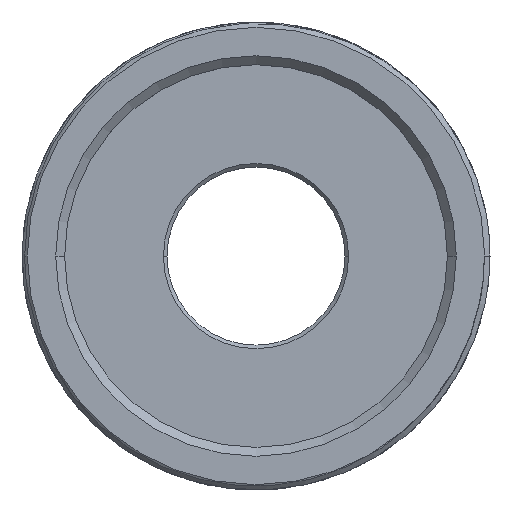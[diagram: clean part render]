
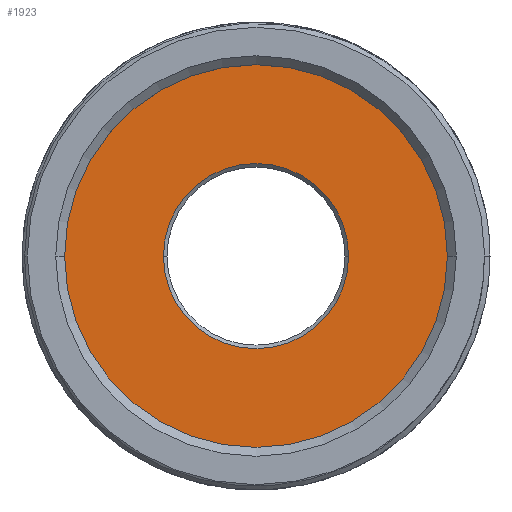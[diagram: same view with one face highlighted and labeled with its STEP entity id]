
A CAD part, top view. The second image highlights one B-rep face of the part: STEP entity #1923.
In plain terms, the highlighted planar face has unit normal (0, 0, 1).
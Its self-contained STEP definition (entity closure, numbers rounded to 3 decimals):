
#16 = CARTESIAN_POINT ( 'NONE',  ( -5.2, 0., 0.6 ) ) ;
#23 = CARTESIAN_POINT ( 'NONE',  ( 5.2, 0., 0.6 ) ) ;
#24 = CARTESIAN_POINT ( 'NONE',  ( 10.75, 0., 0.6 ) ) ;
#25 = CARTESIAN_POINT ( 'NONE',  ( -10.75, 0., 0.6 ) ) ;
#84 = CARTESIAN_POINT ( 'NONE',  ( 0., 0., 0.6 ) ) ;
#85 = DIRECTION ( 'NONE',  ( 0., 0., -1. ) ) ;
#86 = DIRECTION ( 'NONE',  ( 1., 0., 0. ) ) ;
#91 = CARTESIAN_POINT ( 'NONE',  ( 0., 0., 0.6 ) ) ;
#92 = DIRECTION ( 'NONE',  ( 0., 0., -1. ) ) ;
#93 = DIRECTION ( 'NONE',  ( 1., 0., 0. ) ) ;
#674 = PLANE ( 'NONE',  #1269 ) ;
#675 = CARTESIAN_POINT ( 'NONE',  ( 0., 0., 0.6 ) ) ;
#676 = DIRECTION ( 'NONE',  ( 0., 0., 1. ) ) ;
#677 = DIRECTION ( 'NONE',  ( 1., 0., 0. ) ) ;
#740 = CARTESIAN_POINT ( 'NONE',  ( 0., 0., 0.6 ) ) ;
#741 = DIRECTION ( 'NONE',  ( 0., 0., -1. ) ) ;
#742 = DIRECTION ( 'NONE',  ( 1., 0., 0. ) ) ;
#743 = CARTESIAN_POINT ( 'NONE',  ( 0., 0., 0.6 ) ) ;
#744 = DIRECTION ( 'NONE',  ( 0., 0., -1. ) ) ;
#745 = DIRECTION ( 'NONE',  ( 1., 0., 0. ) ) ;
#1209 = AXIS2_PLACEMENT_3D ( 'NONE', #91, #92, #93 ) ;
#1211 = CIRCLE ( 'NONE', #1209, 5.2 ) ;
#1212 = AXIS2_PLACEMENT_3D ( 'NONE', #84, #85, #86 ) ;
#1213 = CIRCLE ( 'NONE', #1212, 10.75 ) ;
#1269 = AXIS2_PLACEMENT_3D ( 'NONE', #675, #676, #677 ) ;
#1289 = CIRCLE ( 'NONE', #1293, 5.2 ) ;
#1291 = CIRCLE ( 'NONE', #1292, 10.75 ) ;
#1292 = AXIS2_PLACEMENT_3D ( 'NONE', #740, #741, #742 ) ;
#1293 = AXIS2_PLACEMENT_3D ( 'NONE', #743, #744, #745 ) ;
#1465 = ORIENTED_EDGE ( 'NONE', *, *, #1858, .T. ) ;
#1466 = ORIENTED_EDGE ( 'NONE', *, *, #1942, .T. ) ;
#1467 = ORIENTED_EDGE ( 'NONE', *, *, #1941, .F. ) ;
#1468 = ORIENTED_EDGE ( 'NONE', *, *, #1855, .F. ) ;
#1512 = VERTEX_POINT ( 'NONE', #16 ) ;
#1525 = VERTEX_POINT ( 'NONE', #23 ) ;
#1527 = VERTEX_POINT ( 'NONE', #24 ) ;
#1528 = VERTEX_POINT ( 'NONE', #25 ) ;
#1701 = EDGE_LOOP ( 'NONE', ( #1465, #1466 ) ) ;
#1702 = EDGE_LOOP ( 'NONE', ( #1468, #1467 ) ) ;
#1787 = FACE_BOUND ( 'NONE', #1701, .T. ) ;
#1788 = FACE_OUTER_BOUND ( 'NONE', #1702, .T. ) ;
#1855 = EDGE_CURVE ( 'NONE', #1527, #1528, #1213, .T. ) ;
#1858 = EDGE_CURVE ( 'NONE', #1525, #1512, #1211, .T. ) ;
#1923 = ADVANCED_FACE ( 'NONE', ( #1787, #1788 ), #674, .T. ) ;
#1941 = EDGE_CURVE ( 'NONE', #1528, #1527, #1291, .T. ) ;
#1942 = EDGE_CURVE ( 'NONE', #1512, #1525, #1289, .T. ) ;
